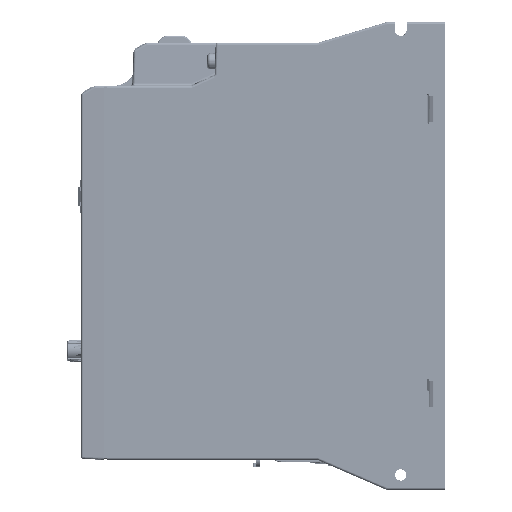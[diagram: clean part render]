
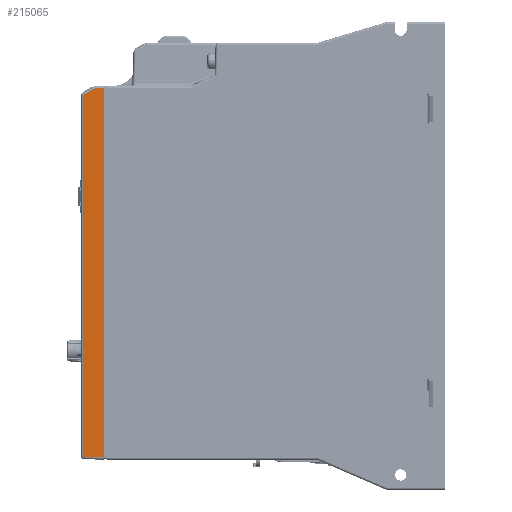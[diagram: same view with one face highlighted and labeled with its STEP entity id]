
A CAD part, left-side view. The second image highlights one B-rep face of the part: STEP entity #215065.
In plain terms, the highlighted planar face has unit normal (-0.999, 0.044, 0).
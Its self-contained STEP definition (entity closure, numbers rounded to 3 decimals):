
#31573=FACE_OUTER_BOUND('',#43767,.T.);
#43767=EDGE_LOOP('',(#184641,#184642,#184643,#184644,#184645));
#61737=LINE('',#446636,#82147);
#61741=LINE('',#448158,#82151);
#62793=LINE('',#453374,#83203);
#62794=LINE('',#453377,#83204);
#62795=LINE('',#453378,#83205);
#82147=VECTOR('',#269688,3.777);
#82151=VECTOR('',#269720,159.501);
#83203=VECTOR('',#272252,6.106);
#83204=VECTOR('',#272255,156.032);
#83205=VECTOR('',#272256,9.061);
#102191=VERTEX_POINT('',#446632);
#102192=VERTEX_POINT('',#446634);
#102204=VERTEX_POINT('',#448157);
#103194=VERTEX_POINT('',#453372);
#103195=VERTEX_POINT('',#453376);
#129739=EDGE_CURVE('',#102192,#102191,#61737,.T.);
#129762=EDGE_CURVE('',#102191,#102204,#61741,.T.);
#131231=EDGE_CURVE('',#103194,#102192,#62793,.T.);
#131232=EDGE_CURVE('',#103195,#103194,#62794,.T.);
#131233=EDGE_CURVE('',#103195,#102204,#62795,.T.);
#184641=ORIENTED_EDGE('',*,*,#129739,.F.);
#184642=ORIENTED_EDGE('',*,*,#131231,.F.);
#184643=ORIENTED_EDGE('',*,*,#131232,.F.);
#184644=ORIENTED_EDGE('',*,*,#131233,.T.);
#184645=ORIENTED_EDGE('',*,*,#129762,.F.);
#204913=PLANE('',#229493);
#215065=ADVANCED_FACE('',(#31573),#204913,.T.);
#229493=AXIS2_PLACEMENT_3D('',#453375,#272253,#272254);
#269688=DIRECTION('',(-0.044,-0.999,0.));
#269720=DIRECTION('',(0.,0.,-1.));
#272252=DIRECTION('',(-0.038,-0.863,0.504));
#272253=DIRECTION('center_axis',(-0.999,0.044,
0.));
#272254=DIRECTION('ref_axis',(0.,0.,1.));
#272255=DIRECTION('',(0.,0.,1.));
#272256=DIRECTION('',(-0.044,-0.998,-0.044));
#446632=CARTESIAN_POINT('',(-37.5,145.,70.5));
#446634=CARTESIAN_POINT('',(-37.335,148.773,70.5));
#446636=CARTESIAN_POINT('',(-37.335,148.773,70.5));
#448157=CARTESIAN_POINT('',(-37.5,145.,-89.001));
#448158=CARTESIAN_POINT('',(-37.5,145.,70.5));
#453372=CARTESIAN_POINT('',(-37.105,154.044,67.426));
#453374=CARTESIAN_POINT('',(-37.105,154.044,67.426));
#453375=CARTESIAN_POINT('Origin',(-37.5,145.,-103.));
#453376=CARTESIAN_POINT('',(-37.105,154.044,-88.606));
#453377=CARTESIAN_POINT('',(-37.105,154.044,-88.606));
#453378=CARTESIAN_POINT('',(-37.105,154.044,-88.606));
